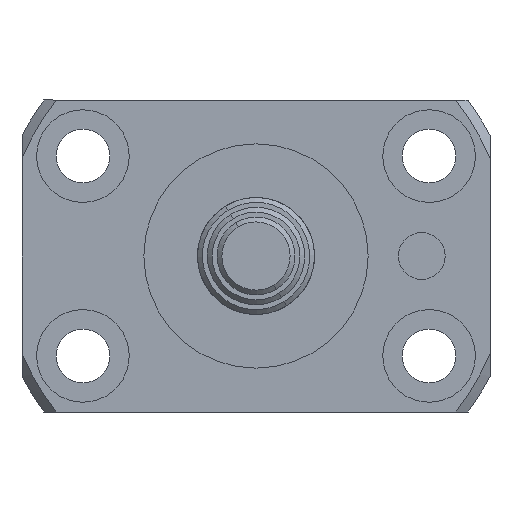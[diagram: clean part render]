
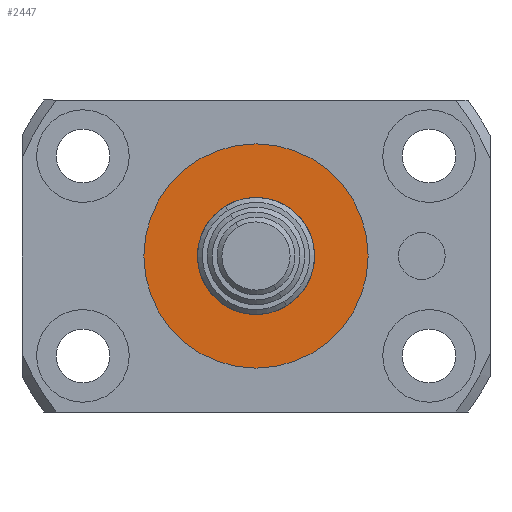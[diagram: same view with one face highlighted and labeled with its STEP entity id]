
A CAD part, left-side view. The second image highlights one B-rep face of the part: STEP entity #2447.
In plain terms, the highlighted planar face has unit normal (-1, 0, 0).
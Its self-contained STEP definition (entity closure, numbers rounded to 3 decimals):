
#72 = AXIS2_PLACEMENT_3D ( 'NONE', #2932, #1111, #3234 ) ;
#78 = CARTESIAN_POINT ( 'NONE',  ( 6., 0., -11.5 ) ) ;
#124 = ORIENTED_EDGE ( 'NONE', *, *, #2584, .T. ) ;
#172 = VERTEX_POINT ( 'NONE', #677 ) ;
#275 = CARTESIAN_POINT ( 'NONE',  ( 6., 0., 6. ) ) ;
#421 = AXIS2_PLACEMENT_3D ( 'NONE', #2374, #558, #2673 ) ;
#558 = DIRECTION ( 'NONE',  ( -1., 0., 0. ) ) ;
#582 = CIRCLE ( 'NONE', #597, 6. ) ;
#597 = AXIS2_PLACEMENT_3D ( 'NONE', #2989, #1166, #3295 ) ;
#677 = CARTESIAN_POINT ( 'NONE',  ( 6., 0., -6. ) ) ;
#729 = ORIENTED_EDGE ( 'NONE', *, *, #3185, .T. ) ;
#776 = VERTEX_POINT ( 'NONE', #78 ) ;
#1111 = DIRECTION ( 'NONE',  ( -1., 0., 0. ) ) ;
#1166 = DIRECTION ( 'NONE',  ( 1., 0., 0. ) ) ;
#1203 = DIRECTION ( 'NONE',  ( -1., 0., 0. ) ) ;
#1334 = EDGE_CURVE ( 'NONE', #776, #2349, #1536, .T. ) ;
#1536 = CIRCLE ( 'NONE', #421, 11.5 ) ;
#1721 = ORIENTED_EDGE ( 'NONE', *, *, #1789, .T. ) ;
#1778 = CARTESIAN_POINT ( 'NONE',  ( 6., 0., 0. ) ) ;
#1789 = EDGE_CURVE ( 'NONE', #172, #2163, #582, .T. ) ;
#1912 = FACE_BOUND ( 'NONE', #2830, .T. ) ;
#1996 = FACE_OUTER_BOUND ( 'NONE', #2961, .T. ) ;
#2091 = DIRECTION ( 'NONE',  ( 0., 0., 1. ) ) ;
#2163 = VERTEX_POINT ( 'NONE', #275 ) ;
#2178 = AXIS2_PLACEMENT_3D ( 'NONE', #3022, #1203, #3326 ) ;
#2311 = PLANE ( 'NONE',  #72 ) ;
#2349 = VERTEX_POINT ( 'NONE', #3540 ) ;
#2355 = AXIS2_PLACEMENT_3D ( 'NONE', #1778, #3893, #2091 ) ;
#2374 = CARTESIAN_POINT ( 'NONE',  ( 6., 0., 0. ) ) ;
#2447 = ADVANCED_FACE ( 'NONE', ( #1996, #1912 ), #2311, .T. ) ;
#2584 = EDGE_CURVE ( 'NONE', #2349, #776, #3892, .T. ) ;
#2619 = ORIENTED_EDGE ( 'NONE', *, *, #1334, .T. ) ;
#2673 = DIRECTION ( 'NONE',  ( 0., 0., 1. ) ) ;
#2830 = EDGE_LOOP ( 'NONE', ( #729, #1721 ) ) ;
#2932 = CARTESIAN_POINT ( 'NONE',  ( 6., 0., 0. ) ) ;
#2961 = EDGE_LOOP ( 'NONE', ( #124, #2619 ) ) ;
#2989 = CARTESIAN_POINT ( 'NONE',  ( 6., 0., 0. ) ) ;
#3022 = CARTESIAN_POINT ( 'NONE',  ( 6., 0., 0. ) ) ;
#3154 = CIRCLE ( 'NONE', #2355, 6. ) ;
#3185 = EDGE_CURVE ( 'NONE', #2163, #172, #3154, .T. ) ;
#3234 = DIRECTION ( 'NONE',  ( 0., 0., 1. ) ) ;
#3295 = DIRECTION ( 'NONE',  ( 0., 0., 1. ) ) ;
#3326 = DIRECTION ( 'NONE',  ( 0., 0., 1. ) ) ;
#3540 = CARTESIAN_POINT ( 'NONE',  ( 6., 0., 11.5 ) ) ;
#3892 = CIRCLE ( 'NONE', #2178, 11.5 ) ;
#3893 = DIRECTION ( 'NONE',  ( 1., 0., 0. ) ) ;
